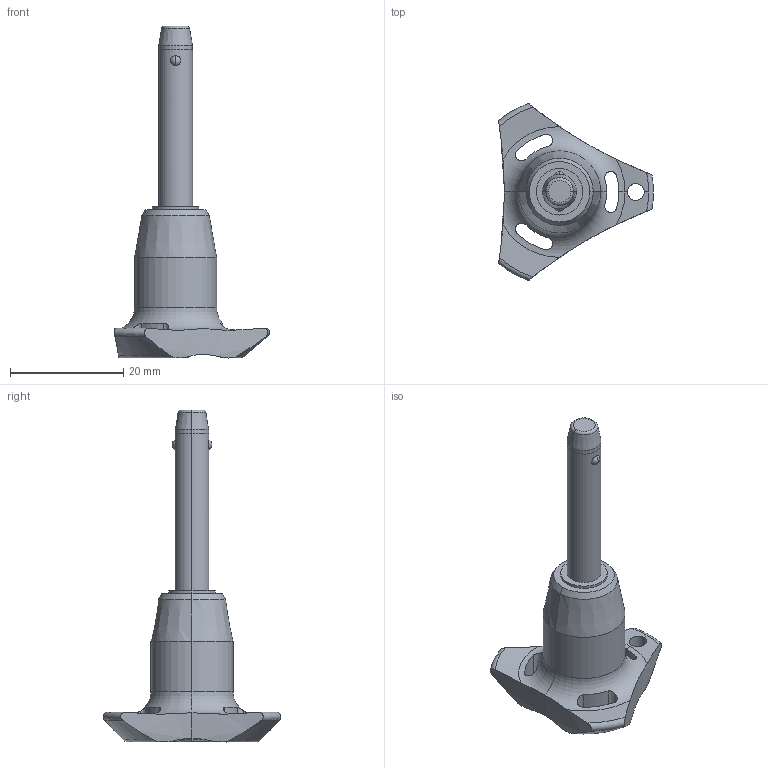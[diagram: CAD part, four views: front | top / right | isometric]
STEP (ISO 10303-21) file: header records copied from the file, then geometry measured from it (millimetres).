
FILE_DESCRIPTION (( 'STEP AP203' ), '1' );
FILE_NAME ('QR1716.M06-025-T.step', '2025-11-13T10:27:21', ( '' ), ( '' ), 'SwSTEP 2.0', 'SolidWorks 2019', '' );
FILE_SCHEMA (( 'CONFIG_CONTROL_DESIGN' ));
Length unit declared in the file: millimetre
Products named in the file (1): QR1716.M06-025-T
Bounding box: 27.4 x 31.31 x 58.7 mm (x, y, z)
Volume: 5672.8 mm3; surface area: 3024.2 mm2
Topology: 1 solids, 1 shells, 69 faces, 187 edges, 119 vertices
Faces by surface type: cylinder 32, cone 14, torus 12, sphere 6, plane 5
Entity records: 2789 total; most frequent: CARTESIAN_POINT 1010, ORIENTED_EDGE 374, DIRECTION 348, EDGE_CURVE 187, AXIS2_PLACEMENT_3D 155, VERTEX_POINT 119, CIRCLE 85, EDGE_LOOP 76
